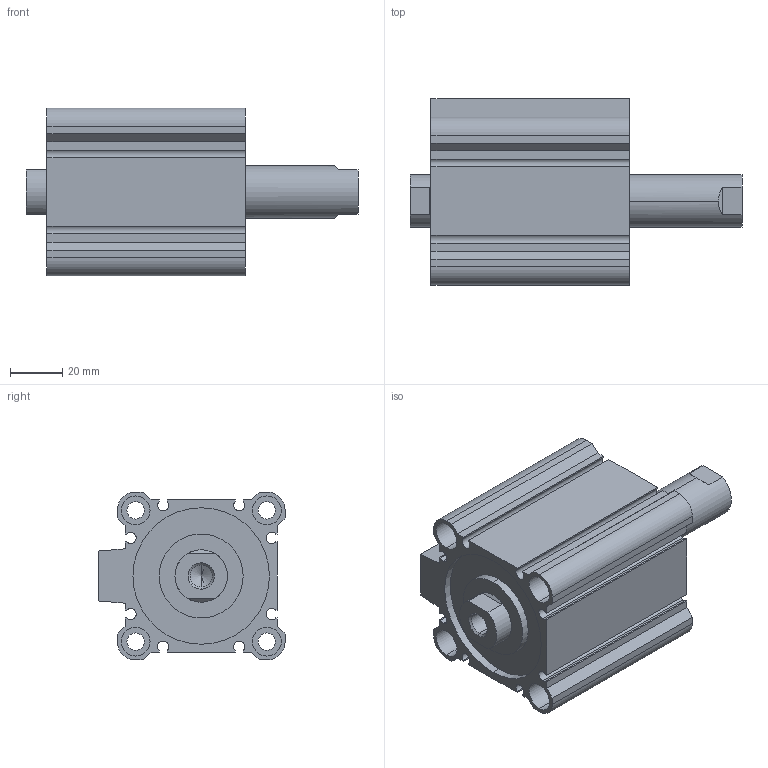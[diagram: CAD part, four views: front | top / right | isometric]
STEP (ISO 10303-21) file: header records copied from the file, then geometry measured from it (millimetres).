
FILE_DESCRIPTION (( 'STEP AP203' ), '1' );
FILE_NAME ('CCMB50-35F-P.STEP', '2020-08-05T11:27:44', ( '' ), ( '' ), 'SwSTEP 2.0', 'SolidWorks 2019', '' );
FILE_SCHEMA (( 'CONFIG_CONTROL_DESIGN' ));
Length unit declared in the file: millimetre
Products named in the file (1): CCMB50-35F-P
Bounding box: 126.5 x 71 x 64 mm (x, y, z)
Volume: 206867.9 mm3; surface area: 69119 mm2
Topology: 2 solids, 2 shells, 164 faces, 414 edges, 270 vertices
Faces by surface type: plane 78, cylinder 74, cone 12
Entity records: 5025 total; most frequent: DIRECTION 888, CARTESIAN_POINT 869, ORIENTED_EDGE 820, EDGE_CURVE 410, AXIS2_PLACEMENT_3D 321, VERTEX_POINT 270, LINE 246, VECTOR 246
